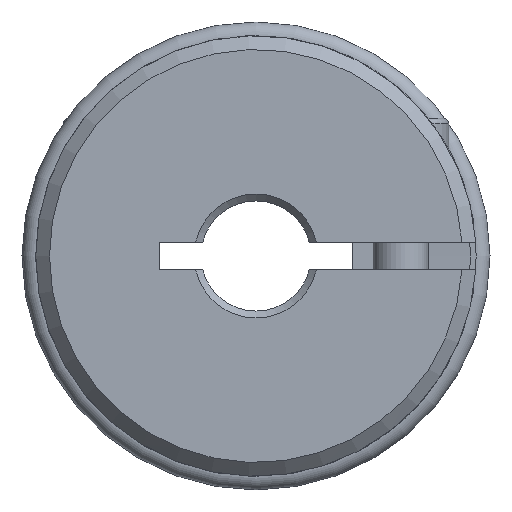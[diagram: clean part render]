
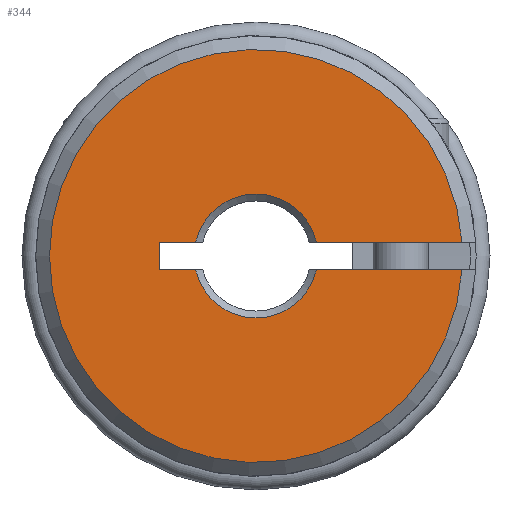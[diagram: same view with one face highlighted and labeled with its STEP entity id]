
A CAD part, left-side view. The second image highlights one B-rep face of the part: STEP entity #344.
In plain terms, the highlighted planar face has unit normal (-1, 0, 0).
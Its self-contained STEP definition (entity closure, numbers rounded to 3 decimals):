
#344 = ADVANCED_FACE( '', ( #759 ), #760, .T. );
#759 = FACE_OUTER_BOUND( '', #1232, .T. );
#760 = PLANE( '', #1233 );
#1232 = EDGE_LOOP( '', ( #2034, #2035, #2036, #2037, #2038, #2039, #2040, #2041 ) );
#1233 = AXIS2_PLACEMENT_3D( '', #2042, #2043, #2044 );
#2034 = ORIENTED_EDGE( '', *, *, #2508, .T. );
#2035 = ORIENTED_EDGE( '', *, *, #2443, .T. );
#2036 = ORIENTED_EDGE( '', *, *, #2622, .T. );
#2037 = ORIENTED_EDGE( '', *, *, #2608, .T. );
#2038 = ORIENTED_EDGE( '', *, *, #2644, .T. );
#2039 = ORIENTED_EDGE( '', *, *, #2645, .T. );
#2040 = ORIENTED_EDGE( '', *, *, #2646, .T. );
#2041 = ORIENTED_EDGE( '', *, *, #2532, .F. );
#2042 = CARTESIAN_POINT( '', ( -19.16, 0., 2.5 ) );
#2043 = DIRECTION( '', ( -1., 0., 0. ) );
#2044 = DIRECTION( '', ( 0., 0., 1. ) );
#2443 = EDGE_CURVE( '', #2860, #2864, #2866, .T. );
#2508 = EDGE_CURVE( '', #2967, #2860, #2968, .T. );
#2532 = EDGE_CURVE( '', #2967, #3006, #3007, .T. );
#2608 = EDGE_CURVE( '', #3116, #3114, #3117, .T. );
#2622 = EDGE_CURVE( '', #2864, #3116, #3136, .T. );
#2644 = EDGE_CURVE( '', #3114, #3164, #3165, .T. );
#2645 = EDGE_CURVE( '', #3164, #3166, #3167, .T. );
#2646 = EDGE_CURVE( '', #3166, #3006, #3168, .T. );
#2860 = VERTEX_POINT( '', #3552 );
#2864 = VERTEX_POINT( '', #3556 );
#2866 = CIRCLE( '', #3558, 4.5 );
#2967 = VERTEX_POINT( '', #3734 );
#2968 = LINE( '', #3735, #3736 );
#3006 = VERTEX_POINT( '', #3782 );
#3007 = CIRCLE( '', #3783, 15. );
#3114 = VERTEX_POINT( '', #3917 );
#3116 = VERTEX_POINT( '', #3920 );
#3117 = LINE( '', #3921, #3922 );
#3136 = LINE( '', #3945, #3946 );
#3164 = VERTEX_POINT( '', #4044 );
#3165 = LINE( '', #4045, #4046 );
#3166 = VERTEX_POINT( '', #4047 );
#3167 = CIRCLE( '', #4048, 4.5 );
#3168 = LINE( '', #4049, #4050 );
#3552 = CARTESIAN_POINT( '', ( -19.16, -4.387, -1. ) );
#3556 = CARTESIAN_POINT( '', ( -19.16, 4.387, -1. ) );
#3558 = AXIS2_PLACEMENT_3D( '', #4276, #4277, #4278 );
#3734 = CARTESIAN_POINT( '', ( -19.16, -14.967, -1. ) );
#3735 = CARTESIAN_POINT( '', ( -19.16, -18., -1. ) );
#3736 = VECTOR( '', #4373, 1000. );
#3782 = CARTESIAN_POINT( '', ( -19.16, -14.967, 1. ) );
#3783 = AXIS2_PLACEMENT_3D( '', #4409, #4410, #4411 );
#3917 = CARTESIAN_POINT( '', ( -19.16, 7., 1. ) );
#3920 = CARTESIAN_POINT( '', ( -19.16, 7., -1. ) );
#3921 = CARTESIAN_POINT( '', ( -19.16, 7., -1. ) );
#3922 = VECTOR( '', #4511, 1000. );
#3945 = CARTESIAN_POINT( '', ( -19.16, 0., -1. ) );
#3946 = VECTOR( '', #4528, 1000. );
#4044 = CARTESIAN_POINT( '', ( -19.16, 4.387, 1. ) );
#4045 = CARTESIAN_POINT( '', ( -19.16, 7., 1. ) );
#4046 = VECTOR( '', #4550, 1000. );
#4047 = CARTESIAN_POINT( '', ( -19.16, -4.387, 1. ) );
#4048 = AXIS2_PLACEMENT_3D( '', #4551, #4552, #4553 );
#4049 = CARTESIAN_POINT( '', ( -19.16, 7., 1. ) );
#4050 = VECTOR( '', #4554, 1000. );
#4276 = CARTESIAN_POINT( '', ( -19.16, 0., 0. ) );
#4277 = DIRECTION( '', ( 1., 0., 0. ) );
#4278 = DIRECTION( '', ( 0., 0., 1. ) );
#4373 = DIRECTION( '', ( 0., 1., 0. ) );
#4409 = CARTESIAN_POINT( '', ( -19.16, 0., 0. ) );
#4410 = DIRECTION( '', ( 1., 0., 0. ) );
#4411 = DIRECTION( '', ( 0., 0., 1. ) );
#4511 = DIRECTION( '', ( 0., 0., 1. ) );
#4528 = DIRECTION( '', ( 0., 1., 0. ) );
#4550 = DIRECTION( '', ( 0., -1., 0. ) );
#4551 = CARTESIAN_POINT( '', ( -19.16, 0., 0. ) );
#4552 = DIRECTION( '', ( 1., 0., 0. ) );
#4553 = DIRECTION( '', ( 0., 0., 1. ) );
#4554 = DIRECTION( '', ( 0., -1., 0. ) );
